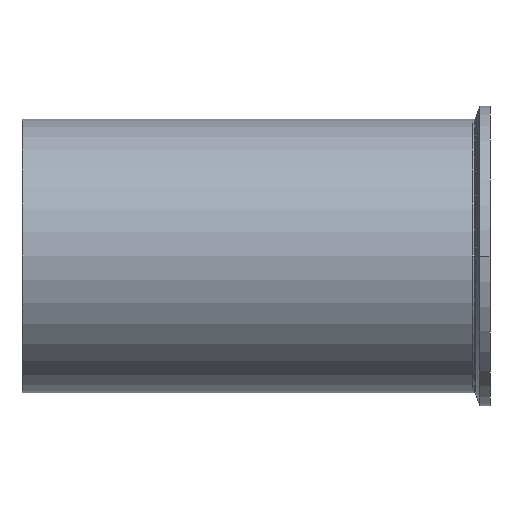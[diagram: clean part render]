
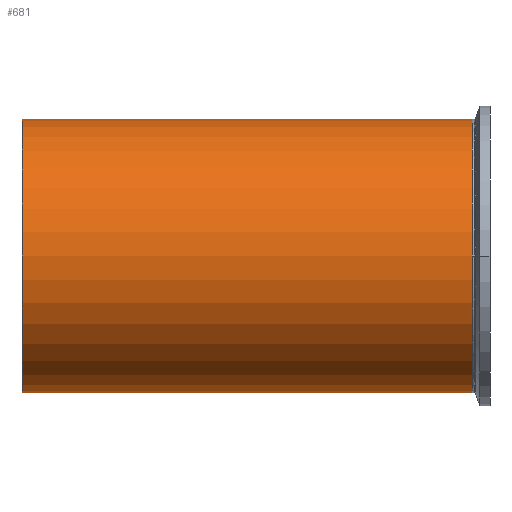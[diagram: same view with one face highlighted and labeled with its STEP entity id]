
A CAD part, front view. The second image highlights one B-rep face of the part: STEP entity #681.
In plain terms, the highlighted cylindrical face has radius 76.2 mm (diameter 152.4 mm), a partial arc.
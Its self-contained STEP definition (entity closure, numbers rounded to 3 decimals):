
#50 = DIRECTION ( 'NONE',  ( 0., 0., 1. ) ) ;
#71 = VECTOR ( 'NONE', #390, 1000. ) ;
#129 = EDGE_CURVE ( 'NONE', #1523, #385, #1374, .T. ) ;
#143 = EDGE_CURVE ( 'NONE', #430, #530, #1626, .T. ) ;
#164 = EDGE_LOOP ( 'NONE', ( #1125, #1484, #409, #1297, #1807, #1289 ) ) ;
#297 = VECTOR ( 'NONE', #631, 1000. ) ;
#357 = LINE ( 'NONE', #1375, #297 ) ;
#385 = VERTEX_POINT ( 'NONE', #2315 ) ;
#390 = DIRECTION ( 'NONE',  ( -1., 0., 0. ) ) ;
#409 = ORIENTED_EDGE ( 'NONE', *, *, #143, .T. ) ;
#430 = VERTEX_POINT ( 'NONE', #1903 ) ;
#469 = CARTESIAN_POINT ( 'NONE',  ( 107.5, 0., -76.2 ) ) ;
#492 = CIRCLE ( 'NONE', #1989, 76.2 ) ;
#498 = AXIS2_PLACEMENT_3D ( 'NONE', #1852, #544, #2240 ) ;
#530 = VERTEX_POINT ( 'NONE', #660 ) ;
#538 = EDGE_CURVE ( 'NONE', #530, #1883, #1781, .T. ) ;
#544 = DIRECTION ( 'NONE',  ( -1., 0., 0. ) ) ;
#605 = CARTESIAN_POINT ( 'NONE',  ( 323.026, 0., 76.2 ) ) ;
#631 = DIRECTION ( 'NONE',  ( -1., 0., 0. ) ) ;
#653 = VERTEX_POINT ( 'NONE', #1679 ) ;
#660 = CARTESIAN_POINT ( 'NONE',  ( 0., 0., 76.2 ) ) ;
#681 = ADVANCED_FACE ( 'NONE', ( #1312 ), #1333, .T. ) ;
#862 = CARTESIAN_POINT ( 'NONE',  ( 107.5, 0., 0. ) ) ;
#1050 = DIRECTION ( 'NONE',  ( 0., 0., 1. ) ) ;
#1125 = ORIENTED_EDGE ( 'NONE', *, *, #129, .F. ) ;
#1170 = DIRECTION ( 'NONE',  ( 1., 0., 0. ) ) ;
#1204 = VECTOR ( 'NONE', #1911, 1000. ) ;
#1207 = VECTOR ( 'NONE', #1403, 1000. ) ;
#1289 = ORIENTED_EDGE ( 'NONE', *, *, #1823, .F. ) ;
#1297 = ORIENTED_EDGE ( 'NONE', *, *, #538, .T. ) ;
#1312 = FACE_OUTER_BOUND ( 'NONE', #164, .T. ) ;
#1333 = CYLINDRICAL_SURFACE ( 'NONE', #498, 76.2 ) ;
#1374 = LINE ( 'NONE', #1726, #1204 ) ;
#1375 = CARTESIAN_POINT ( 'NONE',  ( 323.026, 0., -76.2 ) ) ;
#1403 = DIRECTION ( 'NONE',  ( -1., 0., 0. ) ) ;
#1474 = EDGE_CURVE ( 'NONE', #1523, #430, #2307, .T. ) ;
#1484 = ORIENTED_EDGE ( 'NONE', *, *, #1474, .T. ) ;
#1523 = VERTEX_POINT ( 'NONE', #469 ) ;
#1547 = CARTESIAN_POINT ( 'NONE',  ( 323.026, 0., 76.2 ) ) ;
#1626 = LINE ( 'NONE', #1547, #1207 ) ;
#1679 = CARTESIAN_POINT ( 'NONE',  ( -142.9, 0., -76.2 ) ) ;
#1726 = CARTESIAN_POINT ( 'NONE',  ( 323.026, 0., -76.2 ) ) ;
#1729 = CARTESIAN_POINT ( 'NONE',  ( -142.9, 0., 76.2 ) ) ;
#1781 = LINE ( 'NONE', #605, #71 ) ;
#1807 = ORIENTED_EDGE ( 'NONE', *, *, #2302, .T. ) ;
#1823 = EDGE_CURVE ( 'NONE', #385, #653, #357, .T. ) ;
#1852 = CARTESIAN_POINT ( 'NONE',  ( 323.026, 0., 0. ) ) ;
#1883 = VERTEX_POINT ( 'NONE', #1729 ) ;
#1903 = CARTESIAN_POINT ( 'NONE',  ( 107.5, 0., 76.2 ) ) ;
#1911 = DIRECTION ( 'NONE',  ( -1., 0., 0. ) ) ;
#1989 = AXIS2_PLACEMENT_3D ( 'NONE', #2200, #1170, #50 ) ;
#2099 = DIRECTION ( 'NONE',  ( -1., 0., 0. ) ) ;
#2200 = CARTESIAN_POINT ( 'NONE',  ( -142.9, 0., 0. ) ) ;
#2240 = DIRECTION ( 'NONE',  ( 0., 0., 1. ) ) ;
#2247 = AXIS2_PLACEMENT_3D ( 'NONE', #862, #2099, #1050 ) ;
#2302 = EDGE_CURVE ( 'NONE', #1883, #653, #492, .T. ) ;
#2307 = CIRCLE ( 'NONE', #2247, 76.2 ) ;
#2315 = CARTESIAN_POINT ( 'NONE',  ( 0., 0., -76.2 ) ) ;
